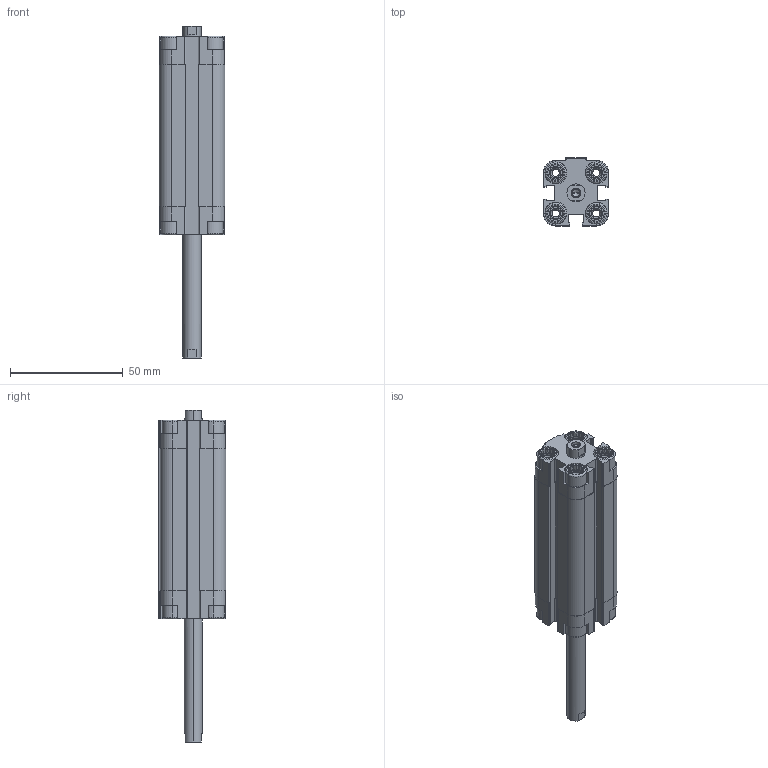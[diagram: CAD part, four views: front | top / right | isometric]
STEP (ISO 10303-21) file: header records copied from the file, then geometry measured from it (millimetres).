
FILE_DESCRIPTION (( 'STEP AP203' ), '1' );
FILE_NAME ('CDVU16-50F-P.STEP', '2020-07-24T18:05:16', ( '' ), ( '' ), 'SwSTEP 2.0', 'SolidWorks 2019', '' );
FILE_SCHEMA (( 'CONFIG_CONTROL_DESIGN' ));
Length unit declared in the file: millimetre
Products named in the file (1): CDVU16-50F-P
Bounding box: 29 x 30 x 147 mm (x, y, z)
Volume: 50274.4 mm3; surface area: 29941.4 mm2
Topology: 2 solids, 2 shells, 566 faces, 1508 edges, 980 vertices
Faces by surface type: plane 338, cylinder 164, cone 48, torus 16
Entity records: 17779 total; most frequent: CARTESIAN_POINT 3623, ORIENTED_EDGE 3000, DIRECTION 2850, EDGE_CURVE 1500, VERTEX_POINT 980, AXIS2_PLACEMENT_3D 975, VECTOR 900, LINE 900
